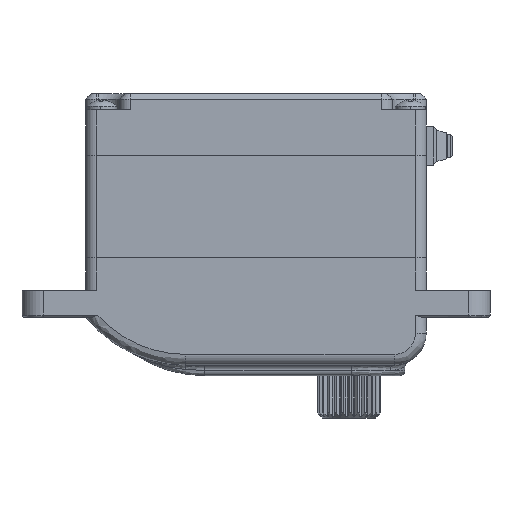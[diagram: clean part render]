
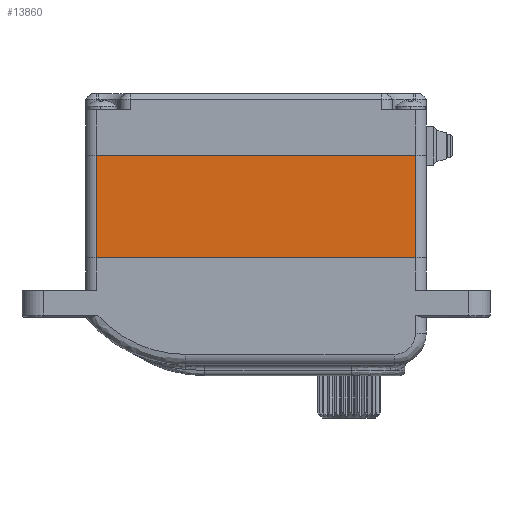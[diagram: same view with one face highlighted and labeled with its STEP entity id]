
A CAD part, front view. The second image highlights one B-rep face of the part: STEP entity #13860.
In plain terms, the highlighted planar face has unit normal (0, -1, 0).
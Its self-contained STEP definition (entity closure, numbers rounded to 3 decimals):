
#86 = VECTOR ( 'NONE', #12799, 1000. ) ;
#427 = ORIENTED_EDGE ( 'NONE', *, *, #12161, .F. ) ;
#1218 = CARTESIAN_POINT ( 'NONE',  ( -80.44, -16.237, 6. ) ) ;
#1432 = FACE_OUTER_BOUND ( 'NONE', #5524, .T. ) ;
#1566 = CARTESIAN_POINT ( 'NONE',  ( -50.44, -16.237, 8. ) ) ;
#3808 = CARTESIAN_POINT ( 'NONE',  ( -80.44, -16.237, 8. ) ) ;
#3923 = VERTEX_POINT ( 'NONE', #1566 ) ;
#4087 = CARTESIAN_POINT ( 'NONE',  ( -81.44, -16.237, 6. ) ) ;
#4460 = DIRECTION ( 'NONE',  ( 0., 0., 1. ) ) ;
#5357 = EDGE_CURVE ( 'NONE', #24628, #3923, #27313, .T. ) ;
#5524 = EDGE_LOOP ( 'NONE', ( #20653, #17161, #19285, #427 ) ) ;
#7544 = EDGE_CURVE ( 'NONE', #3923, #16089, #9816, .T. ) ;
#8398 = CARTESIAN_POINT ( 'NONE',  ( -80.44, -16.237, -1.6 ) ) ;
#8566 = DIRECTION ( 'NONE',  ( 0., 1., 0. ) ) ;
#8661 = VERTEX_POINT ( 'NONE', #8398 ) ;
#8664 = PLANE ( 'NONE',  #9350 ) ;
#8763 = VECTOR ( 'NONE', #17110, 1000. ) ;
#9350 = AXIS2_PLACEMENT_3D ( 'NONE', #4087, #8566, #4460 ) ;
#9816 = LINE ( 'NONE', #19107, #8763 ) ;
#10299 = CARTESIAN_POINT ( 'NONE',  ( -81.44, -16.237, -1.6 ) ) ;
#11614 = DIRECTION ( 'NONE',  ( 1., 0., 0. ) ) ;
#12161 = EDGE_CURVE ( 'NONE', #16089, #8661, #26905, .T. ) ;
#12799 = DIRECTION ( 'NONE',  ( -1., 0., 0. ) ) ;
#13045 = LINE ( 'NONE', #1218, #26064 ) ;
#13860 = ADVANCED_FACE ( 'NONE', ( #1432 ), #8664, .F. ) ;
#14098 = DIRECTION ( 'NONE',  ( 0., 0., 1. ) ) ;
#16089 = VERTEX_POINT ( 'NONE', #20824 ) ;
#17110 = DIRECTION ( 'NONE',  ( 0., 0., -1. ) ) ;
#17161 = ORIENTED_EDGE ( 'NONE', *, *, #5357, .F. ) ;
#19107 = CARTESIAN_POINT ( 'NONE',  ( -50.44, -16.237, 6. ) ) ;
#19285 = ORIENTED_EDGE ( 'NONE', *, *, #24851, .F. ) ;
#20653 = ORIENTED_EDGE ( 'NONE', *, *, #7544, .F. ) ;
#20824 = CARTESIAN_POINT ( 'NONE',  ( -50.44, -16.237, -1.6 ) ) ;
#24628 = VERTEX_POINT ( 'NONE', #3808 ) ;
#24772 = CARTESIAN_POINT ( 'NONE',  ( -81.44, -16.237, 8. ) ) ;
#24851 = EDGE_CURVE ( 'NONE', #8661, #24628, #13045, .T. ) ;
#26064 = VECTOR ( 'NONE', #14098, 1000. ) ;
#26296 = VECTOR ( 'NONE', #11614, 1000. ) ;
#26905 = LINE ( 'NONE', #10299, #86 ) ;
#27313 = LINE ( 'NONE', #24772, #26296 ) ;
